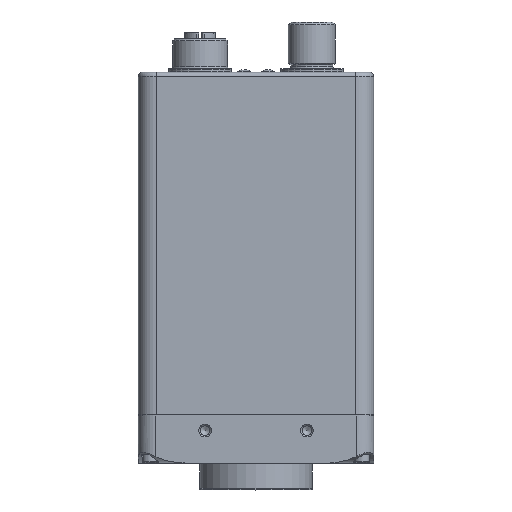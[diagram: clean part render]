
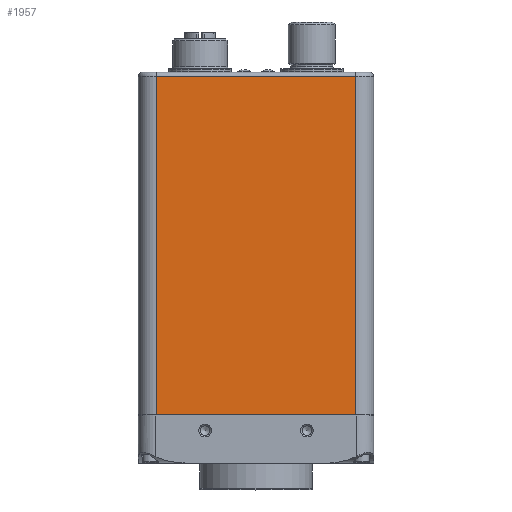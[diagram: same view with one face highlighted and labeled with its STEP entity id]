
A CAD part, top view. The second image highlights one B-rep face of the part: STEP entity #1957.
In plain terms, the highlighted planar face has unit normal (0, 0, 1).
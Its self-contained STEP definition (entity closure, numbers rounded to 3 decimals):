
#1957 = ADVANCED_FACE( '', ( #5251 ), #5252, .F. );
#5251 = FACE_OUTER_BOUND( '', #11029, .T. );
#5252 = PLANE( '', #11030 );
#11029 = EDGE_LOOP( '', ( #18467, #18468, #18469, #18470 ) );
#11030 = AXIS2_PLACEMENT_3D( '', #18471, #18472, #18473 );
#18467 = ORIENTED_EDGE( '', *, *, #30388, .F. );
#18468 = ORIENTED_EDGE( '', *, *, #29439, .T. );
#18469 = ORIENTED_EDGE( '', *, *, #30389, .T. );
#18470 = ORIENTED_EDGE( '', *, *, #30390, .T. );
#18471 = CARTESIAN_POINT( '', ( -25.488, 88.545, 29.988 ) );
#18472 = DIRECTION( '', ( 0., 0., -1. ) );
#18473 = DIRECTION( '', ( 0., 1., 0. ) );
#29439 = EDGE_CURVE( '', #33896, #33893, #33897, .F. );
#30388 = EDGE_CURVE( '', #33896, #35531, #35532, .T. );
#30389 = EDGE_CURVE( '', #33893, #35533, #35534, .T. );
#30390 = EDGE_CURVE( '', #35533, #35531, #35535, .T. );
#33893 = VERTEX_POINT( '', #40415 );
#33896 = VERTEX_POINT( '', #40418 );
#33897 = LINE( '', #40419, #40420 );
#35531 = VERTEX_POINT( '', #43404 );
#35532 = LINE( '', #43405, #43406 );
#35533 = VERTEX_POINT( '', #43407 );
#35534 = LINE( '', #43408, #43409 );
#35535 = LINE( '', #43410, #43411 );
#40415 = CARTESIAN_POINT( '', ( -25.488, 87.545, 29.988 ) );
#40418 = CARTESIAN_POINT( '', ( 25.488, 87.545, 29.988 ) );
#40419 = CARTESIAN_POINT( '', ( -25.488, 87.545, 29.988 ) );
#40420 = VECTOR( '', #51563, 1000. );
#43404 = CARTESIAN_POINT( '', ( 25.488, 1.245, 29.988 ) );
#43405 = CARTESIAN_POINT( '', ( 25.488, 88.545, 29.988 ) );
#43406 = VECTOR( '', #52900, 1000. );
#43407 = CARTESIAN_POINT( '', ( -25.488, 1.245, 29.988 ) );
#43408 = CARTESIAN_POINT( '', ( -25.488, 88.545, 29.988 ) );
#43409 = VECTOR( '', #52901, 1000. );
#43410 = CARTESIAN_POINT( '', ( -25.488, 1.245, 29.988 ) );
#43411 = VECTOR( '', #52902, 1000. );
#51563 = DIRECTION( '', ( 1., 0., 0. ) );
#52900 = DIRECTION( '', ( 0., -1., 0. ) );
#52901 = DIRECTION( '', ( 0., -1., 0. ) );
#52902 = DIRECTION( '', ( 1., 0., 0. ) );
